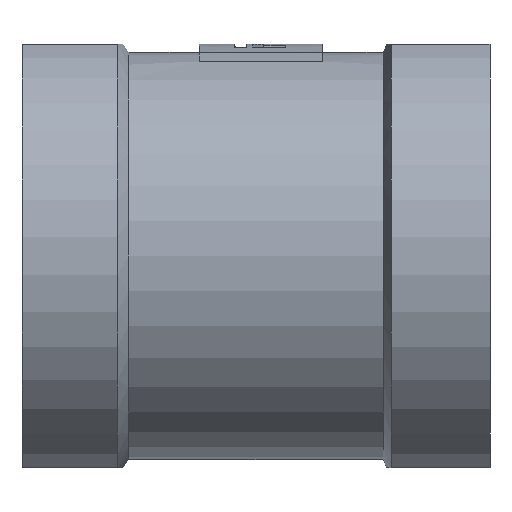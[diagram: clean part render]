
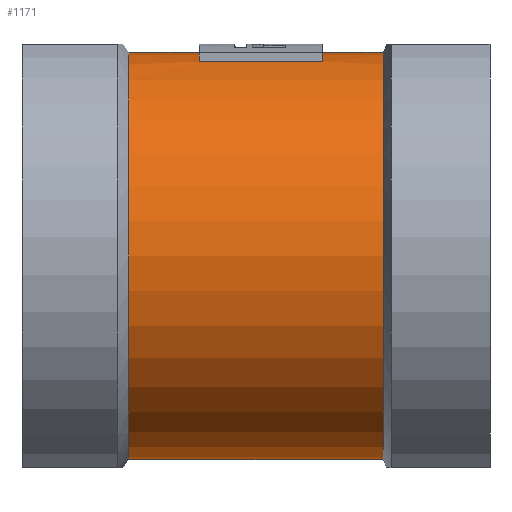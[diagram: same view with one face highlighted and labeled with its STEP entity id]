
A CAD part, front view. The second image highlights one B-rep face of the part: STEP entity #1171.
In plain terms, the highlighted cylindrical face has radius 12.4 mm (diameter 24.8 mm), a full revolution.
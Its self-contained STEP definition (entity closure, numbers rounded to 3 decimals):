
#63=FACE_BOUND('',#216,.T.);
#146=FACE_OUTER_BOUND('',#215,.T.);
#215=EDGE_LOOP('',(#868,#869,#870,#871,#872,#873));
#216=EDGE_LOOP('',(#874,#875,#876,#877));
#287=LINE('',#1855,#356);
#301=LINE('',#1978,#370);
#302=LINE('',#1985,#371);
#356=VECTOR('',#1420,10.);
#370=VECTOR('',#1466,10.);
#371=VECTOR('',#1473,12.4);
#418=CIRCLE('',#1262,12.4);
#423=CIRCLE('',#1275,12.4);
#424=CIRCLE('',#1278,12.4);
#425=CIRCLE('',#1279,12.4);
#426=CIRCLE('',#1280,12.4);
#427=CIRCLE('',#1281,12.4);
#489=VERTEX_POINT('',#1852);
#490=VERTEX_POINT('',#1854);
#491=VERTEX_POINT('',#1858);
#499=VERTEX_POINT('',#1974);
#500=VERTEX_POINT('',#1980);
#501=VERTEX_POINT('',#1981);
#502=VERTEX_POINT('',#1984);
#503=VERTEX_POINT('',#1986);
#621=EDGE_CURVE('',#490,#489,#287,.T.);
#624=EDGE_CURVE('',#489,#491,#418,.T.);
#641=EDGE_CURVE('',#499,#490,#423,.T.);
#643=EDGE_CURVE('',#491,#499,#301,.T.);
#644=EDGE_CURVE('',#500,#501,#424,.T.);
#645=EDGE_CURVE('',#501,#500,#425,.T.);
#646=EDGE_CURVE('',#501,#502,#302,.T.);
#647=EDGE_CURVE('',#502,#503,#426,.T.);
#648=EDGE_CURVE('',#503,#502,#427,.T.);
#868=ORIENTED_EDGE('',*,*,#644,.F.);
#869=ORIENTED_EDGE('',*,*,#645,.F.);
#870=ORIENTED_EDGE('',*,*,#646,.T.);
#871=ORIENTED_EDGE('',*,*,#647,.T.);
#872=ORIENTED_EDGE('',*,*,#648,.T.);
#873=ORIENTED_EDGE('',*,*,#646,.F.);
#874=ORIENTED_EDGE('',*,*,#621,.T.);
#875=ORIENTED_EDGE('',*,*,#624,.T.);
#876=ORIENTED_EDGE('',*,*,#643,.T.);
#877=ORIENTED_EDGE('',*,*,#641,.T.);
#1119=CYLINDRICAL_SURFACE('',#1277,12.4);
#1171=ADVANCED_FACE('',(#146,#63),#1119,.T.);
#1262=AXIS2_PLACEMENT_3D('',#1860,#1425,#1426);
#1275=AXIS2_PLACEMENT_3D('',#1975,#1461,#1462);
#1277=AXIS2_PLACEMENT_3D('',#1979,#1467,#1468);
#1278=AXIS2_PLACEMENT_3D('',#1982,#1469,#1470);
#1279=AXIS2_PLACEMENT_3D('',#1983,#1471,#1472);
#1280=AXIS2_PLACEMENT_3D('',#1987,#1474,#1475);
#1281=AXIS2_PLACEMENT_3D('',#1988,#1476,#1477);
#1420=DIRECTION('',(-1.,0.,0.));
#1425=DIRECTION('center_axis',(-1.,0.,0.));
#1426=DIRECTION('ref_axis',(0.,-1.,0.));
#1461=DIRECTION('center_axis',(1.,0.,0.));
#1462=DIRECTION('ref_axis',(0.,-1.,0.));
#1466=DIRECTION('',(1.,0.,0.));
#1467=DIRECTION('center_axis',(-1.,0.,0.));
#1468=DIRECTION('ref_axis',(0.,-1.,0.));
#1469=DIRECTION('center_axis',(-1.,0.,0.));
#1470=DIRECTION('ref_axis',(0.,0.,1.));
#1471=DIRECTION('center_axis',(-1.,0.,0.));
#1472=DIRECTION('ref_axis',(0.,0.,1.));
#1473=DIRECTION('',(1.,0.,0.));
#1474=DIRECTION('center_axis',(-1.,0.,0.));
#1475=DIRECTION('ref_axis',(0.,0.,1.));
#1476=DIRECTION('center_axis',(-1.,0.,0.));
#1477=DIRECTION('ref_axis',(0.,0.,1.));
#1852=CARTESIAN_POINT('',(-19.648,-3.649,11.851));
#1854=CARTESIAN_POINT('',(-12.151,-3.649,11.851));
#1855=CARTESIAN_POINT('',(-16.189,-3.649,11.851));
#1858=CARTESIAN_POINT('',(-19.648,3.788,11.807));
#1860=CARTESIAN_POINT('Origin',(-19.648,0.,
0.));
#1974=CARTESIAN_POINT('',(-12.151,3.788,11.807));
#1975=CARTESIAN_POINT('Origin',(-12.151,0.,
0.));
#1978=CARTESIAN_POINT('',(-16.189,3.788,11.807));
#1979=CARTESIAN_POINT('Origin',(-16.189,0.,
0.));
#1980=CARTESIAN_POINT('',(-23.939,-12.4,0.));
#1981=CARTESIAN_POINT('',(-23.939,12.4,0.));
#1982=CARTESIAN_POINT('Origin',(-23.939,0.,
0.));
#1983=CARTESIAN_POINT('Origin',(-23.939,0.,
0.));
#1984=CARTESIAN_POINT('',(-8.439,12.4,0.));
#1985=CARTESIAN_POINT('',(-16.189,12.4,0.));
#1986=CARTESIAN_POINT('',(-8.439,-12.4,0.));
#1987=CARTESIAN_POINT('Origin',(-8.439,0.,
0.));
#1988=CARTESIAN_POINT('Origin',(-8.439,0.,
0.));
